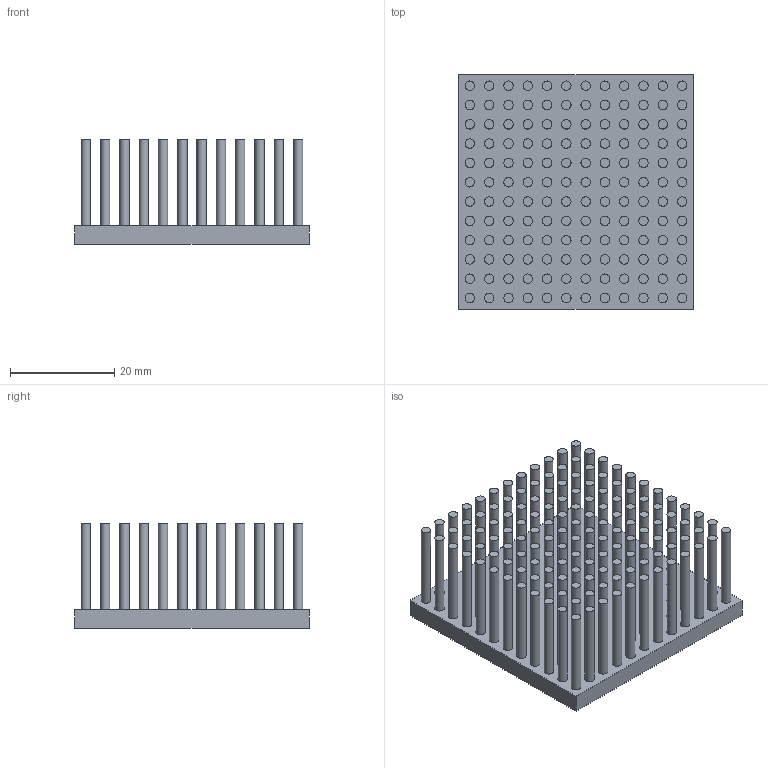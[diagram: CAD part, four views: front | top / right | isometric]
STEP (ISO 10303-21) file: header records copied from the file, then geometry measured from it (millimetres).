
FILE_DESCRIPTION(/* description */ (''),/* implementation_level */ '2;1');
FILE_NAME(/* name */ 'PB4545-144.stp',/* time_stamp */ '2013-08-21T09:00:45+08:00',/* author */ (''),/* organization */ (''),/* preprocessor_version */ 'ST-DEVELOPER v14',/* originating_system */ 'SIEMENS PLM Software NX 8.0',/* authorisation */ '');
FILE_SCHEMA (('CONFIG_CONTROL_DESIGN'));
Length unit declared in the file: millimetre
Products named in the file (1): PB4545-144
Bounding box: 45 x 45 x 20 mm (x, y, z)
Volume: 13133.7 mm3; surface area: 18116 mm2
Topology: 1 solids, 1 shells, 294 faces, 444 edges, 296 vertices
Faces by surface type: plane 150, cylinder 144
Full cylindrical faces by diameter (mm): 1.8 x144
Entity records: 6000 total; most frequent: DIRECTION 1178, CARTESIAN_POINT 891, ORIENTED_EDGE 600, AXIS2_PLACEMENT_3D 583, EDGE_LOOP 582, FACE_BOUND 433, EDGE_CURVE 300, VERTEX_POINT 296
